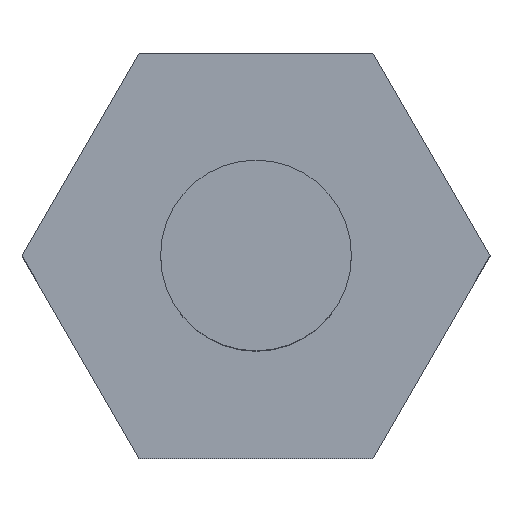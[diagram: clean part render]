
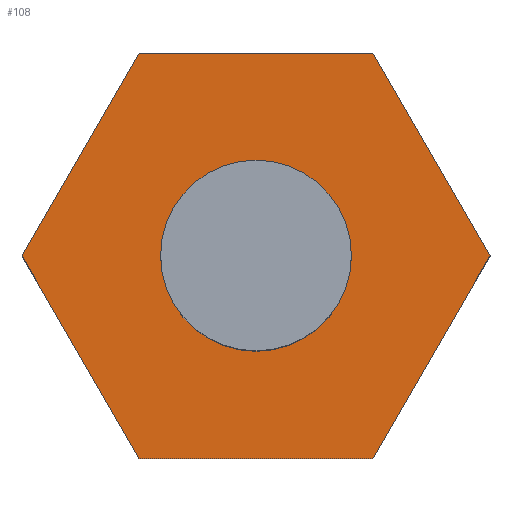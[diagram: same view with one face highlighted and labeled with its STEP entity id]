
A CAD part, top view. The second image highlights one B-rep face of the part: STEP entity #108.
In plain terms, the highlighted planar face has unit normal (0, 0, 1).
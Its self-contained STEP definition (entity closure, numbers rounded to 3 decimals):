
#4 = EDGE_LOOP ( 'NONE', ( #60, #86 ) ) ;
#16 = ORIENTED_EDGE ( 'NONE', *, *, #255, .T. ) ;
#32 = LINE ( 'NONE', #530, #124 ) ;
#52 = EDGE_CURVE ( 'NONE', #266, #236, #324, .T. ) ;
#60 = ORIENTED_EDGE ( 'NONE', *, *, #231, .F. ) ;
#82 = DIRECTION ( 'NONE',  ( 0., 0., 1. ) ) ;
#86 = ORIENTED_EDGE ( 'NONE', *, *, #451, .F. ) ;
#90 = CARTESIAN_POINT ( 'NONE',  ( 4.907, -8.5, 58. ) ) ;
#96 = DIRECTION ( 'NONE',  ( 0.5, -0.866, 0. ) ) ;
#108 = ADVANCED_FACE ( 'NONE', ( #487, #351 ), #119, .T. ) ;
#109 = AXIS2_PLACEMENT_3D ( 'NONE', #274, #528, #307 ) ;
#113 = VERTEX_POINT ( 'NONE', #154 ) ;
#119 = PLANE ( 'NONE',  #469 ) ;
#123 = DIRECTION ( 'NONE',  ( 1., 0., 0. ) ) ;
#124 = VECTOR ( 'NONE', #96, 1000. ) ;
#126 = CARTESIAN_POINT ( 'NONE',  ( -9.815, 0., 58. ) ) ;
#138 = VERTEX_POINT ( 'NONE', #90 ) ;
#144 = VERTEX_POINT ( 'NONE', #440 ) ;
#150 = EDGE_LOOP ( 'NONE', ( #278, #277, #16, #513, #465, #412 ) ) ;
#152 = DIRECTION ( 'NONE',  ( -1., 0., 0. ) ) ;
#154 = CARTESIAN_POINT ( 'NONE',  ( 4., 0., 58. ) ) ;
#156 = VECTOR ( 'NONE', #375, 1000. ) ;
#173 = DIRECTION ( 'NONE',  ( 0.5, 0.866, 0. ) ) ;
#176 = VECTOR ( 'NONE', #152, 1000. ) ;
#182 = VERTEX_POINT ( 'NONE', #480 ) ;
#189 = LINE ( 'NONE', #237, #401 ) ;
#198 = DIRECTION ( 'NONE',  ( 1., 0., 0. ) ) ;
#200 = EDGE_CURVE ( 'NONE', #519, #272, #32, .T. ) ;
#221 = DIRECTION ( 'NONE',  ( -0.5, -0.866, 0. ) ) ;
#231 = EDGE_CURVE ( 'NONE', #182, #113, #271, .T. ) ;
#236 = VERTEX_POINT ( 'NONE', #303 ) ;
#237 = CARTESIAN_POINT ( 'NONE',  ( 9.815, 0., 58. ) ) ;
#247 = EDGE_CURVE ( 'NONE', #138, #144, #526, .T. ) ;
#250 = CIRCLE ( 'NONE', #306, 4. ) ;
#255 = EDGE_CURVE ( 'NONE', #236, #519, #284, .T. ) ;
#266 = VERTEX_POINT ( 'NONE', #269 ) ;
#269 = CARTESIAN_POINT ( 'NONE',  ( 4.907, 8.5, 58. ) ) ;
#271 = CIRCLE ( 'NONE', #109, 4. ) ;
#272 = VERTEX_POINT ( 'NONE', #308 ) ;
#274 = CARTESIAN_POINT ( 'NONE',  ( 0., 0., 58. ) ) ;
#277 = ORIENTED_EDGE ( 'NONE', *, *, #52, .T. ) ;
#278 = ORIENTED_EDGE ( 'NONE', *, *, #345, .T. ) ;
#284 = LINE ( 'NONE', #404, #320 ) ;
#303 = CARTESIAN_POINT ( 'NONE',  ( -4.907, 8.5, 58. ) ) ;
#306 = AXIS2_PLACEMENT_3D ( 'NONE', #432, #334, #123 ) ;
#307 = DIRECTION ( 'NONE',  ( 1., 0., 0. ) ) ;
#308 = CARTESIAN_POINT ( 'NONE',  ( -4.907, -8.5, 58. ) ) ;
#320 = VECTOR ( 'NONE', #221, 1000. ) ;
#324 = LINE ( 'NONE', #373, #176 ) ;
#334 = DIRECTION ( 'NONE',  ( 0., 0., 1. ) ) ;
#345 = EDGE_CURVE ( 'NONE', #144, #266, #189, .T. ) ;
#351 = FACE_OUTER_BOUND ( 'NONE', #150, .T. ) ;
#373 = CARTESIAN_POINT ( 'NONE',  ( 4.907, 8.5, 58. ) ) ;
#374 = LINE ( 'NONE', #507, #156 ) ;
#375 = DIRECTION ( 'NONE',  ( 1., 0., 0. ) ) ;
#400 = CARTESIAN_POINT ( 'NONE',  ( 4.907, -8.5, 58. ) ) ;
#401 = VECTOR ( 'NONE', #540, 1000. ) ;
#404 = CARTESIAN_POINT ( 'NONE',  ( -4.907, 8.5, 58. ) ) ;
#405 = EDGE_CURVE ( 'NONE', #272, #138, #374, .T. ) ;
#412 = ORIENTED_EDGE ( 'NONE', *, *, #247, .T. ) ;
#432 = CARTESIAN_POINT ( 'NONE',  ( 0., 0., 58. ) ) ;
#440 = CARTESIAN_POINT ( 'NONE',  ( 9.815, 0., 58. ) ) ;
#443 = VECTOR ( 'NONE', #173, 1000. ) ;
#451 = EDGE_CURVE ( 'NONE', #113, #182, #250, .T. ) ;
#465 = ORIENTED_EDGE ( 'NONE', *, *, #405, .T. ) ;
#469 = AXIS2_PLACEMENT_3D ( 'NONE', #543, #82, #198 ) ;
#480 = CARTESIAN_POINT ( 'NONE',  ( -4., 0., 58. ) ) ;
#487 = FACE_BOUND ( 'NONE', #4, .T. ) ;
#507 = CARTESIAN_POINT ( 'NONE',  ( -4.907, -8.5, 58. ) ) ;
#513 = ORIENTED_EDGE ( 'NONE', *, *, #200, .T. ) ;
#519 = VERTEX_POINT ( 'NONE', #126 ) ;
#526 = LINE ( 'NONE', #400, #443 ) ;
#528 = DIRECTION ( 'NONE',  ( 0., 0., 1. ) ) ;
#530 = CARTESIAN_POINT ( 'NONE',  ( -9.815, 0., 58. ) ) ;
#540 = DIRECTION ( 'NONE',  ( -0.5, 0.866, 0. ) ) ;
#543 = CARTESIAN_POINT ( 'NONE',  ( 0., 0., 58. ) ) ;
